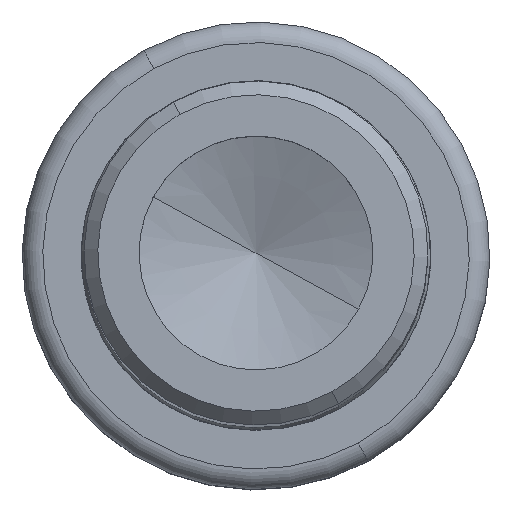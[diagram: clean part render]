
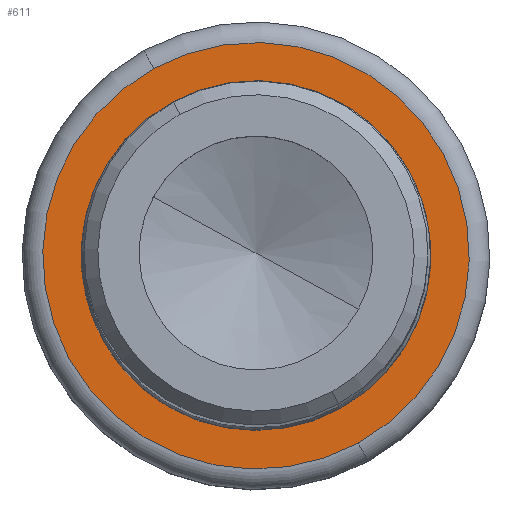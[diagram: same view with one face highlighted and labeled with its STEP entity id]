
A CAD part, top view. The second image highlights one B-rep face of the part: STEP entity #611.
In plain terms, the highlighted planar face has unit normal (0, 0, 1).
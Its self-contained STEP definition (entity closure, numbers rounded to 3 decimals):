
#562=AXIS2_PLACEMENT_3D('Circle Axis2P3D',#560,#561,$) ;
#574=AXIS2_PLACEMENT_3D('Circle Axis2P3D',#572,#573,$) ;
#587=AXIS2_PLACEMENT_3D('Plane Axis2P3D',#584,#585,#586) ;
#591=AXIS2_PLACEMENT_3D('Circle Axis2P3D',#589,#590,$) ;
#600=AXIS2_PLACEMENT_3D('Circle Axis2P3D',#598,#599,$) ;
#550=CARTESIAN_POINT('Vertex',(5.993,10.97,-117.)) ;
#557=CARTESIAN_POINT('Vertex',(-5.993,-10.97,-117.)) ;
#560=CARTESIAN_POINT('Axis2P3D Location',(0.,0.,-117.)) ;
#572=CARTESIAN_POINT('Axis2P3D Location',(0.,0.,-117.)) ;
#584=CARTESIAN_POINT('Axis2P3D Location',(0.,0.,-117.)) ;
#589=CARTESIAN_POINT('Axis2P3D Location',(0.,0.,-117.)) ;
#593=CARTESIAN_POINT('Vertex',(7.431,-13.603,-117.)) ;
#595=CARTESIAN_POINT('Vertex',(-7.431,13.603,-117.)) ;
#598=CARTESIAN_POINT('Axis2P3D Location',(0.,0.,-117.)) ;
#561=DIRECTION('Axis2P3D Direction',(0.,0.,-1.)) ;
#573=DIRECTION('Axis2P3D Direction',(0.,0.,-1.)) ;
#585=DIRECTION('Axis2P3D Direction',(0.,0.,1.)) ;
#586=DIRECTION('Axis2P3D XDirection',(1.,0.,0.)) ;
#590=DIRECTION('Axis2P3D Direction',(0.,0.,1.)) ;
#599=DIRECTION('Axis2P3D Direction',(0.,0.,1.)) ;
#604=ORIENTED_EDGE('',*,*,#597,.T.) ;
#605=ORIENTED_EDGE('',*,*,#602,.T.) ;
#608=ORIENTED_EDGE('',*,*,#564,.F.) ;
#609=ORIENTED_EDGE('',*,*,#576,.F.) ;
#610=FACE_BOUND('',#607,.T.) ;
#611=ADVANCED_FACE('NOCUT',(#606,#610),#588,.T.) ;
#563=CIRCLE('generated circle',#562,12.5) ;
#575=CIRCLE('generated circle',#574,12.5) ;
#592=CIRCLE('generated circle',#591,15.5) ;
#601=CIRCLE('generated circle',#600,15.5) ;
#564=EDGE_CURVE('',#558,#551,#563,.F.) ;
#576=EDGE_CURVE('',#551,#558,#575,.F.) ;
#597=EDGE_CURVE('',#594,#596,#592,.T.) ;
#602=EDGE_CURVE('',#596,#594,#601,.T.) ;
#603=EDGE_LOOP('',(#604,#605)) ;
#607=EDGE_LOOP('',(#608,#609)) ;
#606=FACE_OUTER_BOUND('',#603,.T.) ;
#588=PLANE('',#587) ;
#551=VERTEX_POINT('',#550) ;
#558=VERTEX_POINT('',#557) ;
#594=VERTEX_POINT('',#593) ;
#596=VERTEX_POINT('',#595) ;
